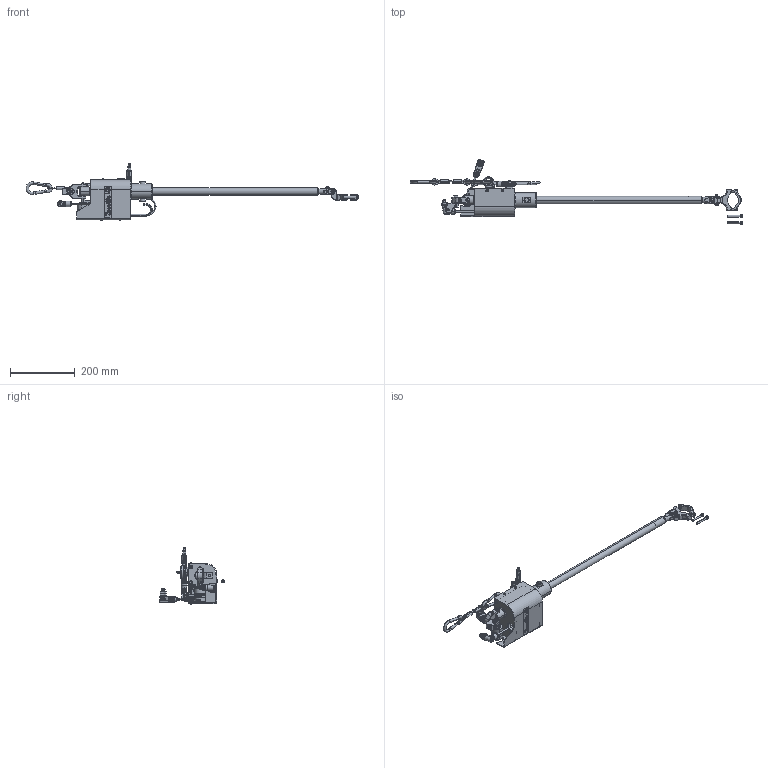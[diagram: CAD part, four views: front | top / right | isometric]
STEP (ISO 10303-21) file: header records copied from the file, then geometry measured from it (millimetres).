
FILE_DESCRIPTION((''),'2;1');
FILE_NAME('6158121070','2015-08-25T',('greextsd'),(''),'CREO PARAMETRIC BY PTC INC, 2015200','CREO PARAMETRIC BY PTC INC, 2015200','');
FILE_SCHEMA(('CONFIG_CONTROL_DESIGN'));
Products named in the file (1): 6158121070
Bounding box: 1026.32 x 200.49 x 174.75 mm (x, y, z)
Volume: 940456.1 mm3; surface area: 449270.5 mm2
Topology: 13 solids, 19 shells, 4174 faces, 10592 edges, 6572 vertices
Faces by surface type: plane 1672, cylinder 1283, cone 553, torus 371, bspline 133, extrusion 99, sphere 63
Entity records: 161974 total; most frequent: CARTESIAN_POINT 63145, ORIENTED_EDGE 21028, DIRECTION 20211, EDGE_CURVE 10514, AXIS2_PLACEMENT_3D 7752, VERTEX_POINT 6572, VECTOR 4707, LINE 4608
